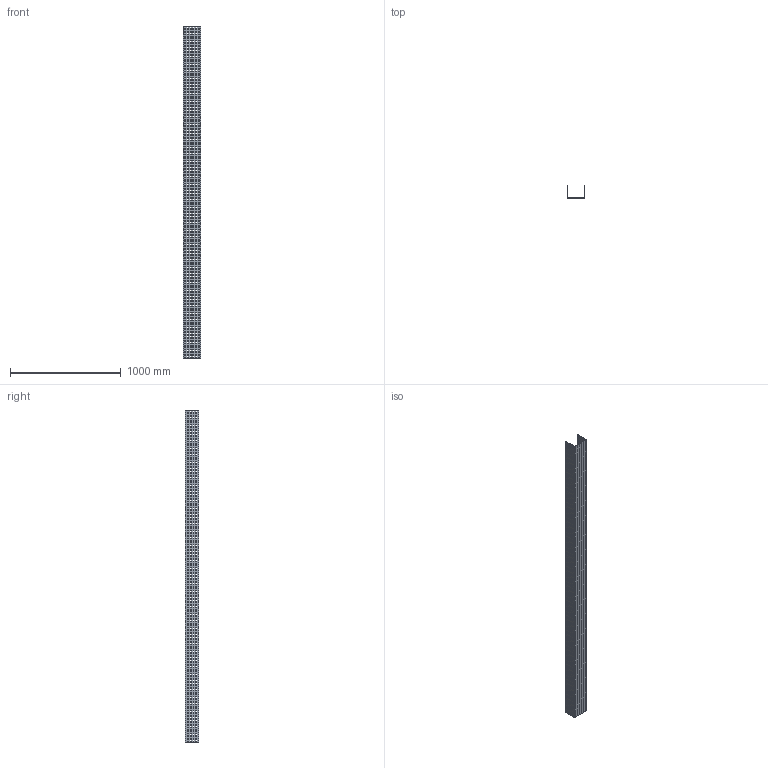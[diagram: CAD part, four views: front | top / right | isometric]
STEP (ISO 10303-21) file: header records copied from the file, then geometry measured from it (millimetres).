
FILE_DESCRIPTION (( 'STEP AP214' ), '1' );
FILE_NAME ('01B3J150.step', '2025-02-21T10:04:47', ( '' ), ( '' ), 'SwSTEP 2.0', 'SolidWorks 2023', '' );
FILE_SCHEMA (( 'AUTOMOTIVE_DESIGN' ));
Products named in the file (1): 01B3J150
Bounding box: 154 x 117.5 x 3000 mm (x, y, z)
Volume: 3393600 mm3; surface area: 2188666 mm2
Topology: 1 solids, 1 shells, 4042 faces, 12120 edges, 8080 vertices
Faces by surface type: plane 4042
Entity records: 137399 total; most frequent: CARTESIAN_POINT 24243, ORIENTED_EDGE 24240, DIRECTION 20206, EDGE_CURVE 12120, VECTOR 12120, LINE 12120, VERTEX_POINT 8080, EDGE_LOOP 6058
